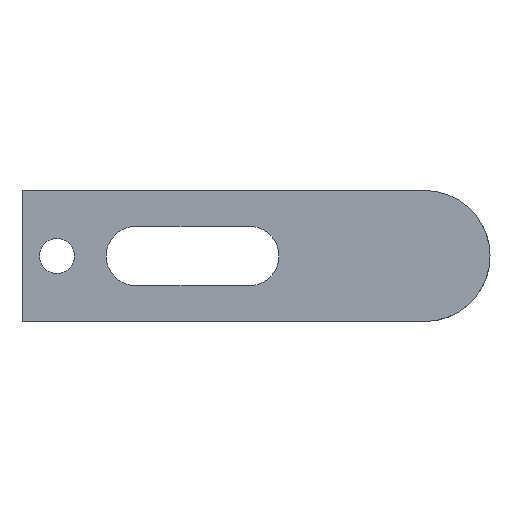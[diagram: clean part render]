
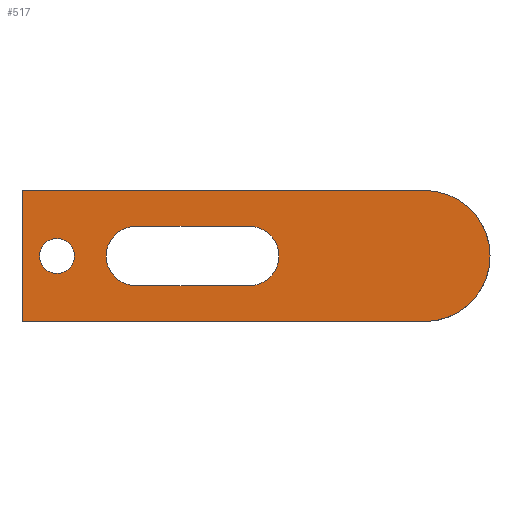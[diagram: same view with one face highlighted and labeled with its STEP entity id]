
A CAD part, front view. The second image highlights one B-rep face of the part: STEP entity #517.
In plain terms, the highlighted planar face has unit normal (0, -1, 0).
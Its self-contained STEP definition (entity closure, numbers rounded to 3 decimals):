
#290=CARTESIAN_POINT('Vertex',(-15.,0.,15.)) ;
#293=CARTESIAN_POINT('Axis2P3D Location',(-15.,0.,0.)) ;
#297=CARTESIAN_POINT('Vertex',(-15.,0.,-15.)) ;
#399=CARTESIAN_POINT('Line Origine',(-61.,0.,15.)) ;
#403=CARTESIAN_POINT('Vertex',(-107.,0.,15.)) ;
#426=CARTESIAN_POINT('Axis2P3D Location',(-107.,0.,15.)) ;
#431=CARTESIAN_POINT('Line Origine',(-61.,0.,-15.)) ;
#435=CARTESIAN_POINT('Vertex',(-107.,0.,-15.)) ;
#438=CARTESIAN_POINT('Line Origine',(-107.,0.,0.)) ;
#449=CARTESIAN_POINT('Axis2P3D Location',(-99.,0.,0.)) ;
#453=CARTESIAN_POINT('Vertex',(-95.,0.,0.)) ;
#455=CARTESIAN_POINT('Vertex',(-99.,0.,-4.)) ;
#458=CARTESIAN_POINT('Axis2P3D Location',(-99.,0.,0.)) ;
#462=CARTESIAN_POINT('Vertex',(-103.,0.,0.)) ;
#465=CARTESIAN_POINT('Axis2P3D Location',(-99.,0.,0.)) ;
#469=CARTESIAN_POINT('Vertex',(-99.,0.,4.)) ;
#472=CARTESIAN_POINT('Axis2P3D Location',(-99.,0.,0.)) ;
#483=CARTESIAN_POINT('Line Origine',(-68.,0.,-6.75)) ;
#487=CARTESIAN_POINT('Vertex',(-55.,0.,-6.75)) ;
#489=CARTESIAN_POINT('Vertex',(-81.,0.,-6.75)) ;
#492=CARTESIAN_POINT('Axis2P3D Location',(-81.,0.,0.)) ;
#496=CARTESIAN_POINT('Vertex',(-81.,0.,6.75)) ;
#499=CARTESIAN_POINT('Line Origine',(-68.,0.,6.75)) ;
#503=CARTESIAN_POINT('Vertex',(-55.,0.,6.75)) ;
#506=CARTESIAN_POINT('Axis2P3D Location',(-55.,0.,0.)) ;
#294=DIRECTION('Axis2P3D Direction',(0.,1.,0.)) ;
#400=DIRECTION('Vector Direction',(1.,0.,0.)) ;
#427=DIRECTION('Axis2P3D Direction',(0.,1.,0.)) ;
#428=DIRECTION('Axis2P3D XDirection',(0.,-0.,1.)) ;
#432=DIRECTION('Vector Direction',(1.,0.,0.)) ;
#439=DIRECTION('Vector Direction',(0.,0.,-1.)) ;
#450=DIRECTION('Axis2P3D Direction',(0.,1.,0.)) ;
#459=DIRECTION('Axis2P3D Direction',(0.,1.,0.)) ;
#466=DIRECTION('Axis2P3D Direction',(0.,1.,0.)) ;
#473=DIRECTION('Axis2P3D Direction',(0.,1.,0.)) ;
#484=DIRECTION('Vector Direction',(-1.,0.,0.)) ;
#493=DIRECTION('Axis2P3D Direction',(0.,1.,0.)) ;
#500=DIRECTION('Vector Direction',(1.,0.,0.)) ;
#507=DIRECTION('Axis2P3D Direction',(0.,1.,0.)) ;
#295=AXIS2_PLACEMENT_3D('Circle Axis2P3D',#293,#294,$) ;
#429=AXIS2_PLACEMENT_3D('Plane Axis2P3D',#426,#427,#428) ;
#451=AXIS2_PLACEMENT_3D('Circle Axis2P3D',#449,#450,$) ;
#460=AXIS2_PLACEMENT_3D('Circle Axis2P3D',#458,#459,$) ;
#467=AXIS2_PLACEMENT_3D('Circle Axis2P3D',#465,#466,$) ;
#474=AXIS2_PLACEMENT_3D('Circle Axis2P3D',#472,#473,$) ;
#494=AXIS2_PLACEMENT_3D('Circle Axis2P3D',#492,#493,$) ;
#508=AXIS2_PLACEMENT_3D('Circle Axis2P3D',#506,#507,$) ;
#444=ORIENTED_EDGE('',*,*,#437,.T.) ;
#445=ORIENTED_EDGE('',*,*,#299,.F.) ;
#446=ORIENTED_EDGE('',*,*,#405,.F.) ;
#447=ORIENTED_EDGE('',*,*,#442,.T.) ;
#478=ORIENTED_EDGE('',*,*,#457,.T.) ;
#479=ORIENTED_EDGE('',*,*,#464,.T.) ;
#480=ORIENTED_EDGE('',*,*,#471,.T.) ;
#481=ORIENTED_EDGE('',*,*,#476,.T.) ;
#512=ORIENTED_EDGE('',*,*,#491,.T.) ;
#513=ORIENTED_EDGE('',*,*,#498,.T.) ;
#514=ORIENTED_EDGE('',*,*,#505,.T.) ;
#515=ORIENTED_EDGE('',*,*,#510,.T.) ;
#482=FACE_BOUND('',#477,.T.) ;
#516=FACE_BOUND('',#511,.T.) ;
#401=VECTOR('Line Direction',#400,1.) ;
#433=VECTOR('Line Direction',#432,1.) ;
#440=VECTOR('Line Direction',#439,1.) ;
#485=VECTOR('Line Direction',#484,1.) ;
#501=VECTOR('Line Direction',#500,1.) ;
#517=ADVANCED_FACE('702-8',(#448,#482,#516),#430,.F.) ;
#296=CIRCLE('generated circle',#295,15.) ;
#452=CIRCLE('generated circle',#451,4.) ;
#461=CIRCLE('generated circle',#460,4.) ;
#468=CIRCLE('generated circle',#467,4.) ;
#475=CIRCLE('generated circle',#474,4.) ;
#495=CIRCLE('generated circle',#494,6.75) ;
#509=CIRCLE('generated circle',#508,6.75) ;
#299=EDGE_CURVE('',#291,#298,#296,.T.) ;
#405=EDGE_CURVE('',#404,#291,#402,.T.) ;
#437=EDGE_CURVE('',#436,#298,#434,.T.) ;
#442=EDGE_CURVE('',#404,#436,#441,.T.) ;
#457=EDGE_CURVE('',#454,#456,#452,.T.) ;
#464=EDGE_CURVE('',#456,#463,#461,.T.) ;
#471=EDGE_CURVE('',#463,#470,#468,.T.) ;
#476=EDGE_CURVE('',#470,#454,#475,.T.) ;
#491=EDGE_CURVE('',#488,#490,#486,.T.) ;
#498=EDGE_CURVE('',#490,#497,#495,.T.) ;
#505=EDGE_CURVE('',#497,#504,#502,.T.) ;
#510=EDGE_CURVE('',#504,#488,#509,.T.) ;
#443=EDGE_LOOP('',(#444,#445,#446,#447)) ;
#477=EDGE_LOOP('',(#478,#479,#480,#481)) ;
#511=EDGE_LOOP('',(#512,#513,#514,#515)) ;
#448=FACE_OUTER_BOUND('',#443,.T.) ;
#402=LINE('Line',#399,#401) ;
#434=LINE('Line',#431,#433) ;
#441=LINE('Line',#438,#440) ;
#486=LINE('Line',#483,#485) ;
#502=LINE('Line',#499,#501) ;
#430=PLANE('Plane',#429) ;
#291=VERTEX_POINT('',#290) ;
#298=VERTEX_POINT('',#297) ;
#404=VERTEX_POINT('',#403) ;
#436=VERTEX_POINT('',#435) ;
#454=VERTEX_POINT('',#453) ;
#456=VERTEX_POINT('',#455) ;
#463=VERTEX_POINT('',#462) ;
#470=VERTEX_POINT('',#469) ;
#488=VERTEX_POINT('',#487) ;
#490=VERTEX_POINT('',#489) ;
#497=VERTEX_POINT('',#496) ;
#504=VERTEX_POINT('',#503) ;
